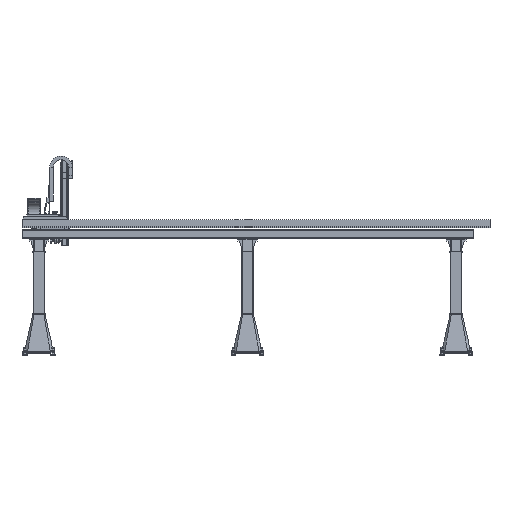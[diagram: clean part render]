
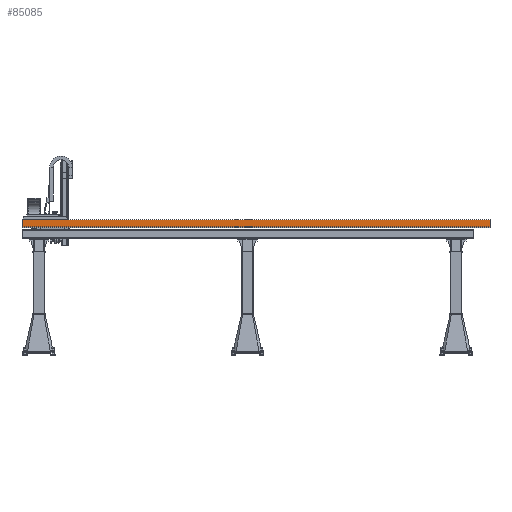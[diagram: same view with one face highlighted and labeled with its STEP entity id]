
A CAD part, top view. The second image highlights one B-rep face of the part: STEP entity #85085.
In plain terms, the highlighted planar face has unit normal (0, 0, 1) as drawn and (-1, 0, 0) by its records, which use the part's own axes.
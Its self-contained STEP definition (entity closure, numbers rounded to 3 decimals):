
#141 = PLANE ( 'NONE',  #10967 ) ;
#1689 = VECTOR ( 'NONE', #59217, 1000. ) ;
#10967 = AXIS2_PLACEMENT_3D ( 'NONE', #24363, #80396, #32489 ) ;
#11002 = VECTOR ( 'NONE', #88902, 1000. ) ;
#11447 = EDGE_CURVE ( 'NONE', #62890, #63335, #95015, .T. ) ;
#15775 = DIRECTION ( 'NONE',  ( 0., 0., 1. ) ) ;
#16468 = ORIENTED_EDGE ( 'NONE', *, *, #11447, .T. ) ;
#21001 = DIRECTION ( 'NONE',  ( 0., -1., 0. ) ) ;
#24363 = CARTESIAN_POINT ( 'NONE',  ( -119., 140.01, -8300. ) ) ;
#29259 = CARTESIAN_POINT ( 'NONE',  ( -119., 140., 0. ) ) ;
#32489 = DIRECTION ( 'NONE',  ( 0., -1., 0. ) ) ;
#32937 = CARTESIAN_POINT ( 'NONE',  ( -119., 15., -8300. ) ) ;
#33377 = ORIENTED_EDGE ( 'NONE', *, *, #77393, .F. ) ;
#33854 = VECTOR ( 'NONE', #15775, 1000. ) ;
#36447 = CARTESIAN_POINT ( 'NONE',  ( -119., 140.01, -8300. ) ) ;
#39958 = FACE_OUTER_BOUND ( 'NONE', #97541, .T. ) ;
#42546 = VERTEX_POINT ( 'NONE', #29259 ) ;
#43934 = ORIENTED_EDGE ( 'NONE', *, *, #60730, .F. ) ;
#45941 = CARTESIAN_POINT ( 'NONE',  ( -119., 15., 0. ) ) ;
#51098 = LINE ( 'NONE', #32937, #11002 ) ;
#51561 = ORIENTED_EDGE ( 'NONE', *, *, #85741, .T. ) ;
#55127 = LINE ( 'NONE', #103696, #33854 ) ;
#58054 = VERTEX_POINT ( 'NONE', #45941 ) ;
#58120 = CARTESIAN_POINT ( 'NONE',  ( -119., 140., -8300. ) ) ;
#59217 = DIRECTION ( 'NONE',  ( 0., -1., 0. ) ) ;
#60730 = EDGE_CURVE ( 'NONE', #62890, #42546, #55127, .T. ) ;
#62890 = VERTEX_POINT ( 'NONE', #58120 ) ;
#63335 = VERTEX_POINT ( 'NONE', #64335 ) ;
#64335 = CARTESIAN_POINT ( 'NONE',  ( -119., 15., -8300. ) ) ;
#65662 = LINE ( 'NONE', #66578, #1689 ) ;
#66578 = CARTESIAN_POINT ( 'NONE',  ( -119., 140.01, 0. ) ) ;
#77393 = EDGE_CURVE ( 'NONE', #42546, #58054, #65662, .T. ) ;
#80396 = DIRECTION ( 'NONE',  ( -1., 0., 0. ) ) ;
#85085 = ADVANCED_FACE ( 'NONE', ( #39958 ), #141, .T. ) ;
#85741 = EDGE_CURVE ( 'NONE', #63335, #58054, #51098, .T. ) ;
#88902 = DIRECTION ( 'NONE',  ( 0., 0., 1. ) ) ;
#92515 = VECTOR ( 'NONE', #21001, 1000. ) ;
#95015 = LINE ( 'NONE', #36447, #92515 ) ;
#97541 = EDGE_LOOP ( 'NONE', ( #33377, #43934, #16468, #51561 ) ) ;
#103696 = CARTESIAN_POINT ( 'NONE',  ( -119., 140., -8300. ) ) ;
